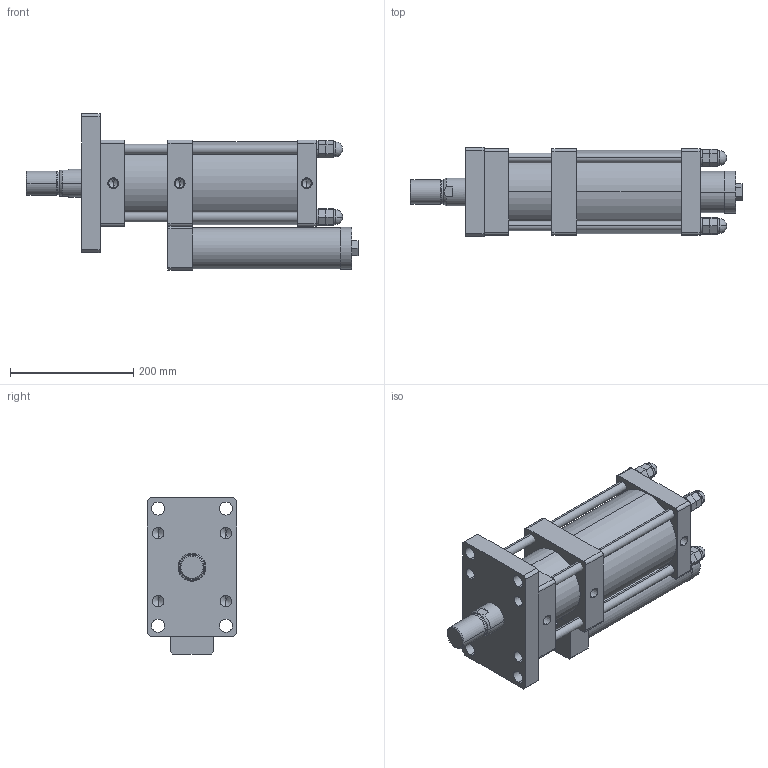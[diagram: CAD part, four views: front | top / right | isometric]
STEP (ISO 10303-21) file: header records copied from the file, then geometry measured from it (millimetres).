
FILE_DESCRIPTION (( 'STEP AP203' ), '1' );
FILE_NAME ('CPT-100-5-13T.STEP', '2016-03-15T05:22:47', ( 'WIN' ), ( '' ), 'SwSTEP 2.0', 'SolidWorks 2014', '' );
FILE_SCHEMA (( 'CONFIG_CONTROL_DESIGN' ));
Length unit declared in the file: millimetre
Products named in the file (1): CPT-100-5-13T
Bounding box: 538 x 145 x 253.5 mm (x, y, z)
Volume: 6932344.8 mm3; surface area: 591399.6 mm2
Topology: 13 solids, 13 shells, 399 faces, 980 edges, 555 vertices
Faces by surface type: plane 187, cylinder 80, torus 48, bspline 48, cone 36
Entity records: 12745 total; most frequent: CARTESIAN_POINT 3687, DIRECTION 1934, ORIENTED_EDGE 1812, EDGE_CURVE 906, AXIS2_PLACEMENT_3D 726, VERTEX_POINT 555, VECTOR 482, LINE 482
